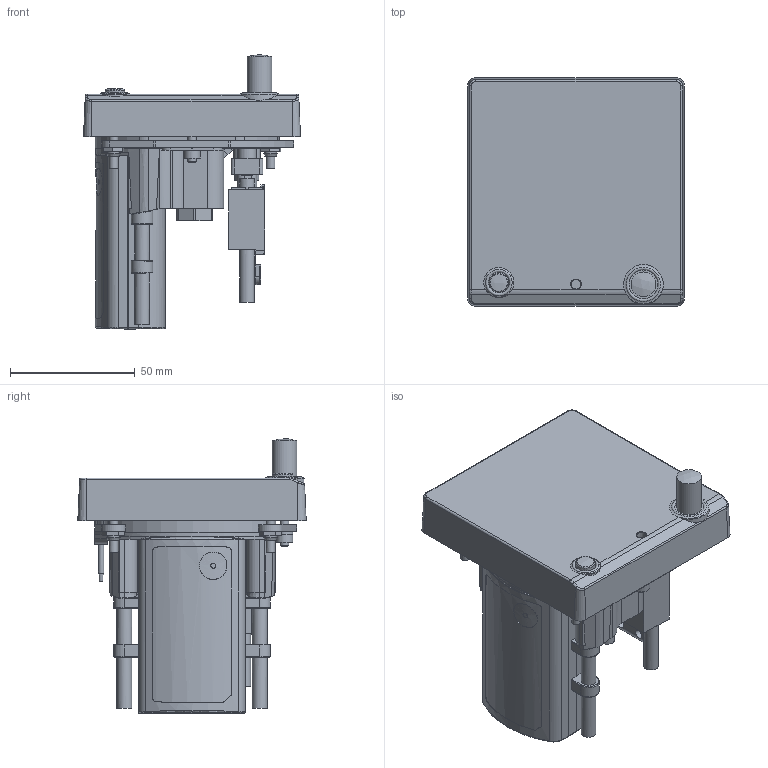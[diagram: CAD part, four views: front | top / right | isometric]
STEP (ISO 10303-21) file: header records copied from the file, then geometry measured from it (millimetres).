
FILE_DESCRIPTION (( 'STEP AP203' ), '1' );
FILE_NAME ('G5_011-03809-00_R(115-02251-03)_H(211-60207-12)_C(011-03002-00)_A(011-03893-00)_rev4.STEP', '2017-08-31T21:47:30', ( 'Garmin' ), ( 'Garmin' ), 'SwSTEP 2.0', 'SolidWorks 2016', '' );
FILE_SCHEMA (( 'CONFIG_CONTROL_DESIGN' ));
Products named in the file (1): G5_011-03809-00_R(115-02251-03)_H(211-60207-12)_C(011-03002-00)_A(011-03893-00)_rev4
Bounding box: 86.86 x 91.4 x 109.78 mm (x, y, z)
Volume: 301966.9 mm3; surface area: 57173.7 mm2
Topology: 5 solids, 14 shells, 1403 faces, 3642 edges, 2361 vertices
Faces by surface type: plane 860, cylinder 279, bspline 167, cone 75, torus 13, sphere 9
Full cylindrical faces by diameter (mm): 1.778 x2, 1.981 x2, 2 x1, 2.108 x1, 2.16 x1, 2.22 x1, 2.261 x2, 2.705 x1, 3.048 x1, 3.124 x2, 3.454 x2, 3.505 x7, 3.988 x4, 5.944 x10, 6.731 x1, 6.858 x3, 8.382 x1, 9.652 x1, 9.906 x1, 11 x1, 11.024 x1
Entity records: 51960 total; most frequent: CARTESIAN_POINT 19766, ORIENTED_EDGE 7070, DIRECTION 5789, EDGE_CURVE 3535, LINE 2399, VECTOR 2399, VERTEX_POINT 2329, AXIS2_PLACEMENT_3D 1695
